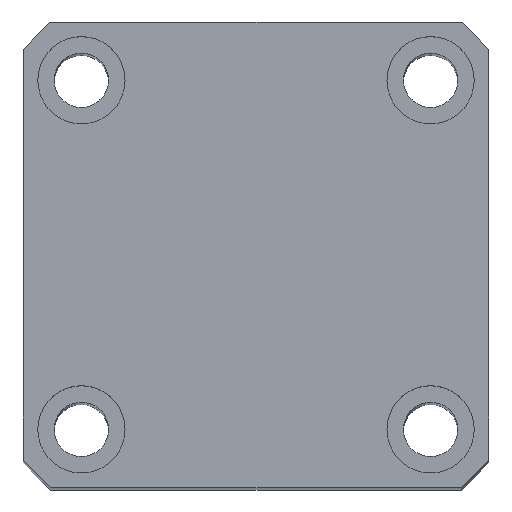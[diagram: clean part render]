
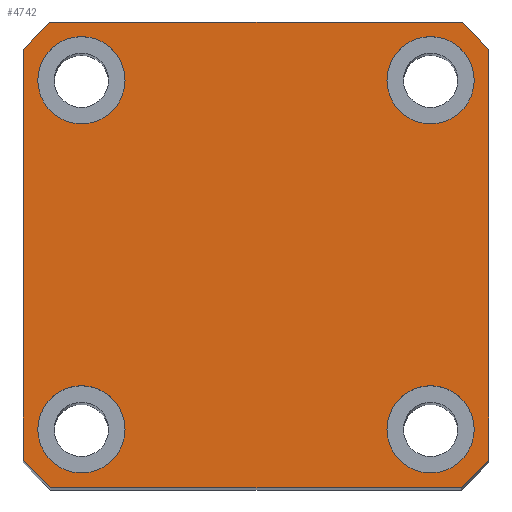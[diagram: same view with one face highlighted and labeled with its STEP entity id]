
A CAD part, top view. The second image highlights one B-rep face of the part: STEP entity #4742.
In plain terms, the highlighted planar face has unit normal (0, 0, 1) as drawn and (1, 0, 0) by its records, which use the part's own axes.
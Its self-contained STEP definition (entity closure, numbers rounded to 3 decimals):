
#10 = VERTEX_POINT ( 'NONE', #9164 ) ;
#166 = EDGE_CURVE ( 'NONE', #6988, #8094, #9902, .T. ) ;
#205 = DIRECTION ( 'NONE',  ( 0., 0., 1. ) ) ;
#229 = EDGE_CURVE ( 'NONE', #1908, #9161, #1113, .T. ) ;
#349 = LINE ( 'NONE', #9905, #2275 ) ;
#380 = CARTESIAN_POINT ( 'NONE',  ( 145., 24., 24. ) ) ;
#442 = DIRECTION ( 'NONE',  ( 0., -1., 0. ) ) ;
#622 = ORIENTED_EDGE ( 'NONE', *, *, #10511, .T. ) ;
#669 = AXIS2_PLACEMENT_3D ( 'NONE', #8583, #3642, #9429 ) ;
#841 = CIRCLE ( 'NONE', #669, 4.5 ) ;
#899 = ORIENTED_EDGE ( 'NONE', *, *, #4438, .T. ) ;
#923 = CARTESIAN_POINT ( 'NONE',  ( 145., 0., 0. ) ) ;
#941 = CARTESIAN_POINT ( 'NONE',  ( 145., 24., 21.166 ) ) ;
#952 = CARTESIAN_POINT ( 'NONE',  ( 145., 18., -13.5 ) ) ;
#965 = CIRCLE ( 'NONE', #2132, 4.5 ) ;
#997 = AXIS2_PLACEMENT_3D ( 'NONE', #923, #6726, #1735 ) ;
#1082 = CARTESIAN_POINT ( 'NONE',  ( 145., 18., 18. ) ) ;
#1113 = CIRCLE ( 'NONE', #3320, 4.5 ) ;
#1524 = ORIENTED_EDGE ( 'NONE', *, *, #8038, .F. ) ;
#1530 = VERTEX_POINT ( 'NONE', #8964 ) ;
#1611 = DIRECTION ( 'NONE',  ( 1., 0., 0. ) ) ;
#1735 = DIRECTION ( 'NONE',  ( 0., 0., -1. ) ) ;
#1782 = EDGE_LOOP ( 'NONE', ( #4630, #8896 ) ) ;
#1794 = CARTESIAN_POINT ( 'NONE',  ( 145., -24., -21.166 ) ) ;
#1866 = DIRECTION ( 'NONE',  ( 1., 0., 0. ) ) ;
#1890 = VERTEX_POINT ( 'NONE', #941 ) ;
#1907 = DIRECTION ( 'NONE',  ( 0., 0., -1. ) ) ;
#1908 = VERTEX_POINT ( 'NONE', #4224 ) ;
#2132 = AXIS2_PLACEMENT_3D ( 'NONE', #2259, #8031, #3094 ) ;
#2217 = AXIS2_PLACEMENT_3D ( 'NONE', #9220, #6201, #10168 ) ;
#2247 = CIRCLE ( 'NONE', #10681, 4.5 ) ;
#2255 = FACE_OUTER_BOUND ( 'NONE', #3737, .T. ) ;
#2259 = CARTESIAN_POINT ( 'NONE',  ( 145., -18., -18. ) ) ;
#2275 = VECTOR ( 'NONE', #5794, 1000. ) ;
#2295 = EDGE_LOOP ( 'NONE', ( #8759, #7746 ) ) ;
#2664 = DIRECTION ( 'NONE',  ( 0., 1., 0. ) ) ;
#2852 = EDGE_CURVE ( 'NONE', #10, #6988, #349, .T. ) ;
#2939 = AXIS2_PLACEMENT_3D ( 'NONE', #6846, #1866, #7660 ) ;
#2959 = ORIENTED_EDGE ( 'NONE', *, *, #8145, .F. ) ;
#3094 = DIRECTION ( 'NONE',  ( 0., 0., -1. ) ) ;
#3118 = CARTESIAN_POINT ( 'NONE',  ( 145., -18., -22.5 ) ) ;
#3303 = EDGE_CURVE ( 'NONE', #4217, #3594, #8726, .T. ) ;
#3320 = AXIS2_PLACEMENT_3D ( 'NONE', #6832, #6721, #6570 ) ;
#3349 = VERTEX_POINT ( 'NONE', #7134 ) ;
#3440 = CARTESIAN_POINT ( 'NONE',  ( 145., 21.166, -24. ) ) ;
#3481 = CARTESIAN_POINT ( 'NONE',  ( 145., -18., -13.5 ) ) ;
#3594 = VERTEX_POINT ( 'NONE', #952 ) ;
#3635 = CARTESIAN_POINT ( 'NONE',  ( 145., -18., 13.5 ) ) ;
#3642 = DIRECTION ( 'NONE',  ( 1., 0., 0. ) ) ;
#3714 = CARTESIAN_POINT ( 'NONE',  ( 145., 18., -18. ) ) ;
#3737 = EDGE_LOOP ( 'NONE', ( #622, #7245, #7628, #6332, #10200, #899, #4525, #4127 ) ) ;
#3812 = CIRCLE ( 'NONE', #10348, 32. ) ;
#3824 = CIRCLE ( 'NONE', #4060, 4.5 ) ;
#3843 = CARTESIAN_POINT ( 'NONE',  ( 145., 0., 0. ) ) ;
#3852 = DIRECTION ( 'NONE',  ( 1., 0., 0. ) ) ;
#3866 = CIRCLE ( 'NONE', #997, 32. ) ;
#3927 = EDGE_LOOP ( 'NONE', ( #2959, #4287 ) ) ;
#4060 = AXIS2_PLACEMENT_3D ( 'NONE', #1082, #6885, #1907 ) ;
#4127 = ORIENTED_EDGE ( 'NONE', *, *, #166, .T. ) ;
#4217 = VERTEX_POINT ( 'NONE', #6768 ) ;
#4224 = CARTESIAN_POINT ( 'NONE',  ( 145., -18., 22.5 ) ) ;
#4248 = VERTEX_POINT ( 'NONE', #3440 ) ;
#4266 = VERTEX_POINT ( 'NONE', #3481 ) ;
#4287 = ORIENTED_EDGE ( 'NONE', *, *, #229, .F. ) ;
#4292 = CARTESIAN_POINT ( 'NONE',  ( 145., 0., 0. ) ) ;
#4316 = CARTESIAN_POINT ( 'NONE',  ( 145., 24., 24. ) ) ;
#4438 = EDGE_CURVE ( 'NONE', #10205, #10, #3812, .T. ) ;
#4457 = FACE_BOUND ( 'NONE', #3927, .T. ) ;
#4503 = EDGE_CURVE ( 'NONE', #4248, #7985, #5765, .T. ) ;
#4525 = ORIENTED_EDGE ( 'NONE', *, *, #2852, .T. ) ;
#4548 = DIRECTION ( 'NONE',  ( 0., 0., -1. ) ) ;
#4551 = AXIS2_PLACEMENT_3D ( 'NONE', #6592, #1611, #7408 ) ;
#4630 = ORIENTED_EDGE ( 'NONE', *, *, #10312, .F. ) ;
#4659 = AXIS2_PLACEMENT_3D ( 'NONE', #3714, #9495, #4548 ) ;
#4678 = DIRECTION ( 'NONE',  ( 0., 0., -1. ) ) ;
#4718 = FACE_BOUND ( 'NONE', #1782, .T. ) ;
#4742 = ADVANCED_FACE ( 'NONE', ( #6678, #4457, #9109, #4718, #2255 ), #9561, .T. ) ;
#4820 = VERTEX_POINT ( 'NONE', #3118 ) ;
#4902 = CARTESIAN_POINT ( 'NONE',  ( 145., 18., 18. ) ) ;
#4918 = CIRCLE ( 'NONE', #8948, 4.5 ) ;
#5137 = DIRECTION ( 'NONE',  ( 0., 0., -1. ) ) ;
#5284 = ORIENTED_EDGE ( 'NONE', *, *, #3303, .F. ) ;
#5555 = LINE ( 'NONE', #4316, #9427 ) ;
#5739 = DIRECTION ( 'NONE',  ( 0., 0., -1. ) ) ;
#5765 = CIRCLE ( 'NONE', #2939, 32. ) ;
#5794 = DIRECTION ( 'NONE',  ( 0., 0., -1. ) ) ;
#6201 = DIRECTION ( 'NONE',  ( 1., 0., 0. ) ) ;
#6332 = ORIENTED_EDGE ( 'NONE', *, *, #10402, .T. ) ;
#6370 = CARTESIAN_POINT ( 'NONE',  ( 145., -21.166, -24. ) ) ;
#6570 = DIRECTION ( 'NONE',  ( 0., 0., -1. ) ) ;
#6592 = CARTESIAN_POINT ( 'NONE',  ( 145., -18., 18. ) ) ;
#6678 = FACE_BOUND ( 'NONE', #2295, .T. ) ;
#6721 = DIRECTION ( 'NONE',  ( 1., 0., 0. ) ) ;
#6726 = DIRECTION ( 'NONE',  ( 1., 0., 0. ) ) ;
#6768 = CARTESIAN_POINT ( 'NONE',  ( 145., 18., -22.5 ) ) ;
#6832 = CARTESIAN_POINT ( 'NONE',  ( 145., -18., 18. ) ) ;
#6846 = CARTESIAN_POINT ( 'NONE',  ( 145., 0., 0. ) ) ;
#6885 = DIRECTION ( 'NONE',  ( 1., 0., 0. ) ) ;
#6988 = VERTEX_POINT ( 'NONE', #1794 ) ;
#7043 = EDGE_CURVE ( 'NONE', #10383, #3349, #3824, .T. ) ;
#7134 = CARTESIAN_POINT ( 'NONE',  ( 145., 18., 13.5 ) ) ;
#7245 = ORIENTED_EDGE ( 'NONE', *, *, #4503, .T. ) ;
#7408 = DIRECTION ( 'NONE',  ( 0., 0., -1. ) ) ;
#7429 = CARTESIAN_POINT ( 'NONE',  ( 145., 18., 22.5 ) ) ;
#7500 = LINE ( 'NONE', #8423, #9689 ) ;
#7628 = ORIENTED_EDGE ( 'NONE', *, *, #10532, .T. ) ;
#7660 = DIRECTION ( 'NONE',  ( 0., 0., -1. ) ) ;
#7746 = ORIENTED_EDGE ( 'NONE', *, *, #9266, .F. ) ;
#7853 = EDGE_LOOP ( 'NONE', ( #5284, #1524 ) ) ;
#7985 = VERTEX_POINT ( 'NONE', #10432 ) ;
#8031 = DIRECTION ( 'NONE',  ( 1., 0., 0. ) ) ;
#8038 = EDGE_CURVE ( 'NONE', #3594, #4217, #841, .T. ) ;
#8094 = VERTEX_POINT ( 'NONE', #6370 ) ;
#8145 = EDGE_CURVE ( 'NONE', #9161, #1908, #9631, .T. ) ;
#8186 = VECTOR ( 'NONE', #442, 1000. ) ;
#8423 = CARTESIAN_POINT ( 'NONE',  ( 145., 24., -24. ) ) ;
#8514 = EDGE_CURVE ( 'NONE', #4820, #4266, #965, .T. ) ;
#8583 = CARTESIAN_POINT ( 'NONE',  ( 145., 18., -18. ) ) ;
#8700 = LINE ( 'NONE', #380, #8186 ) ;
#8726 = CIRCLE ( 'NONE', #4659, 4.5 ) ;
#8759 = ORIENTED_EDGE ( 'NONE', *, *, #8514, .F. ) ;
#8785 = CARTESIAN_POINT ( 'NONE',  ( 145., -18., -18. ) ) ;
#8880 = EDGE_CURVE ( 'NONE', #1530, #10205, #8700, .T. ) ;
#8896 = ORIENTED_EDGE ( 'NONE', *, *, #7043, .F. ) ;
#8948 = AXIS2_PLACEMENT_3D ( 'NONE', #4902, #10683, #5739 ) ;
#8964 = CARTESIAN_POINT ( 'NONE',  ( 145., 21.166, 24. ) ) ;
#9109 = FACE_BOUND ( 'NONE', #7853, .T. ) ;
#9161 = VERTEX_POINT ( 'NONE', #3635 ) ;
#9164 = CARTESIAN_POINT ( 'NONE',  ( 145., -24., 21.166 ) ) ;
#9220 = CARTESIAN_POINT ( 'NONE',  ( 145., 0., 0. ) ) ;
#9266 = EDGE_CURVE ( 'NONE', #4266, #4820, #2247, .T. ) ;
#9427 = VECTOR ( 'NONE', #205, 1000. ) ;
#9429 = DIRECTION ( 'NONE',  ( 0., 0., -1. ) ) ;
#9495 = DIRECTION ( 'NONE',  ( 1., 0., 0. ) ) ;
#9561 = PLANE ( 'NONE',  #10700 ) ;
#9627 = DIRECTION ( 'NONE',  ( 1., 0., 0. ) ) ;
#9631 = CIRCLE ( 'NONE', #4551, 4.5 ) ;
#9640 = DIRECTION ( 'NONE',  ( 0., 0., -1. ) ) ;
#9689 = VECTOR ( 'NONE', #2664, 1000. ) ;
#9902 = CIRCLE ( 'NONE', #2217, 32. ) ;
#9905 = CARTESIAN_POINT ( 'NONE',  ( 145., -24., 24. ) ) ;
#10072 = DIRECTION ( 'NONE',  ( 1., 0., 0. ) ) ;
#10168 = DIRECTION ( 'NONE',  ( 0., 0., -1. ) ) ;
#10200 = ORIENTED_EDGE ( 'NONE', *, *, #8880, .T. ) ;
#10205 = VERTEX_POINT ( 'NONE', #10613 ) ;
#10312 = EDGE_CURVE ( 'NONE', #3349, #10383, #4918, .T. ) ;
#10348 = AXIS2_PLACEMENT_3D ( 'NONE', #4292, #10072, #5137 ) ;
#10383 = VERTEX_POINT ( 'NONE', #7429 ) ;
#10402 = EDGE_CURVE ( 'NONE', #1890, #1530, #3866, .T. ) ;
#10432 = CARTESIAN_POINT ( 'NONE',  ( 145., 24., -21.166 ) ) ;
#10511 = EDGE_CURVE ( 'NONE', #8094, #4248, #7500, .T. ) ;
#10532 = EDGE_CURVE ( 'NONE', #7985, #1890, #5555, .T. ) ;
#10613 = CARTESIAN_POINT ( 'NONE',  ( 145., -21.166, 24. ) ) ;
#10681 = AXIS2_PLACEMENT_3D ( 'NONE', #8785, #3852, #9640 ) ;
#10683 = DIRECTION ( 'NONE',  ( 1., 0., 0. ) ) ;
#10700 = AXIS2_PLACEMENT_3D ( 'NONE', #3843, #9627, #4678 ) ;
